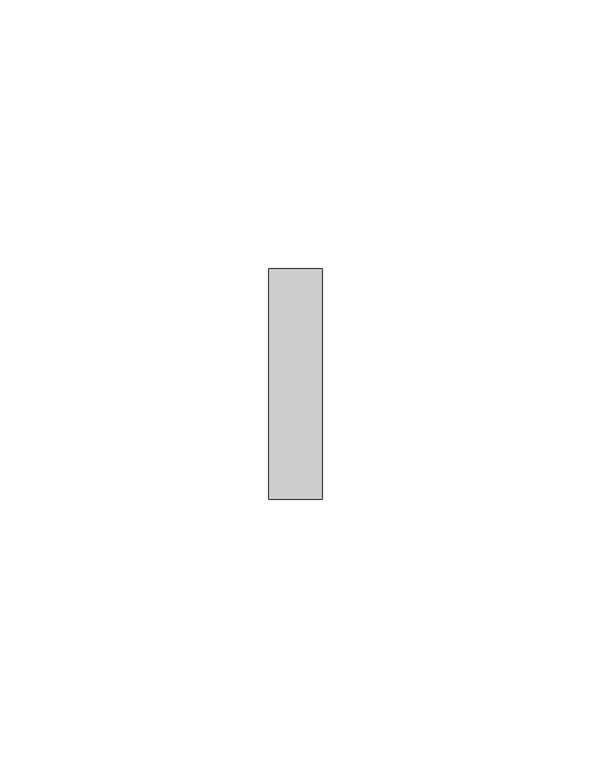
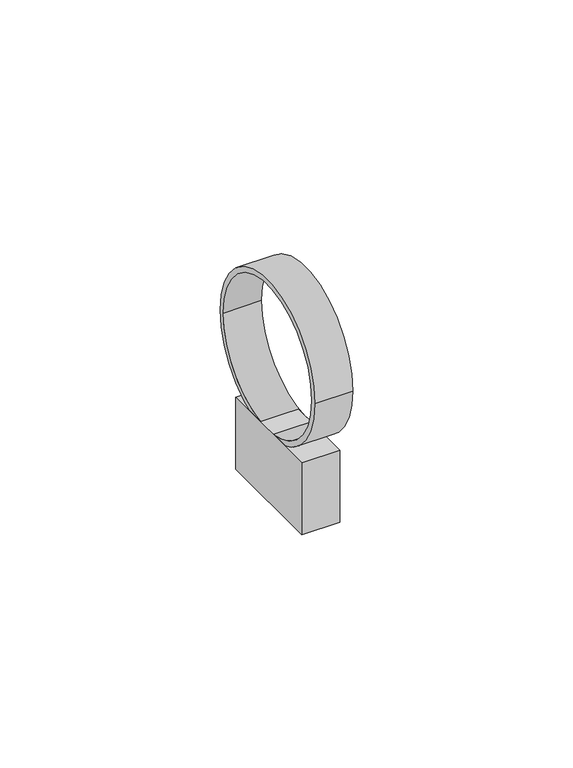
"""IFC4 building model written with IfcOpenShell, lengths in millimetres: cable carrier fitting geometry, Хомутный держатель со стяжкой CFF2 32-63 мм IEK : Хомутный держатель со стяжкой CFF2 32-63 мм IEK."""

from ifc_helpers import new_model, si_unit, point, frame, origin, origin_2d, place, context, project, spatial, polyline, circle_curve, trimmed, segment, composite_curve, outline, extrude, source, transform, mapped, element, save


def cable_carrier_fitting_1836c814(model_context):
    return source(origin(), model_context, "Body", "SweptSolid", [
        extrude(outline(polyline([(5.0, 14.4195258), (5.0, -15.5240345), (-5.0, -15.5240345), (-5.0, 14.4195258), (5.0, 14.4195258)])), frame((0.0, 0.0, -40.0), z_axis=(0.0, 0.0, 1.0), x_axis=(1.0, 0.0, 0.0)), (0.0, 0.0, 1.0), 20.0),
        extrude(outline(composite_curve([segment(trimmed(circle_curve(origin_2d(), 21.5), [point((-21.5, 0.0))], [point((21.5, 0.0))], False, "CARTESIAN"), True, "CONTINUOUS"), segment(trimmed(circle_curve(origin_2d(), 21.5), [point((21.5, 0.0))], [point((-21.5, 0.0))], False, "CARTESIAN"), True, "CONTINUOUS")], self_intersect=False), holes=[composite_curve([segment(trimmed(circle_curve(origin_2d(), 20.0), [point((-20.0, 0.0))], [point((20.0, 0.0))], True, "CARTESIAN"), True, "CONTINUOUS"), segment(trimmed(circle_curve(origin_2d(), 20.0), [point((20.0, 0.0))], [point((-20.0, 0.0))], True, "CARTESIAN"), True, "CONTINUOUS")], self_intersect=False)]), frame((-5.0, 0.0, 0.0), z_axis=(1.0, 0.0, 0.0), x_axis=(0.0, 1.0, 0.0)), (0.0, 0.0, 1.0), 10.0),
    ])


if __name__ == "__main__":
    model = new_model("IFC4")
    model_context = context("Model", 3, world=origin())
    ifc_project = project(units=[si_unit("LENGTHUNIT", "METRE", prefix="MILLI")], contexts=[model_context])
    site = spatial("IfcSite", under=ifc_project)
    building = spatial("IfcBuilding", under=site)
    placement = place(None, origin())
    cable_carrier_fitting_shape = cable_carrier_fitting_1836c814(model_context)
    element("IfcCableCarrierFitting", 1, ObjectType="Хомутный держатель со стяжкой CFF2 32-63 мм IEK : Хомутный держатель со стяжкой CFF2 32-63 мм IEK", at=placement, inside=building, context=model_context, shape_type="MappedRepresentation", body=[
        mapped(cable_carrier_fitting_shape, transform((0.0, 0.0, 0.0), x_axis=(1.0, 0.0, 0.0), y_axis=(0.0, 1.0, 0.0), z_axis=(0.0, 0.0, 1.0))),
    ])
    save(model, "model.ifc")
